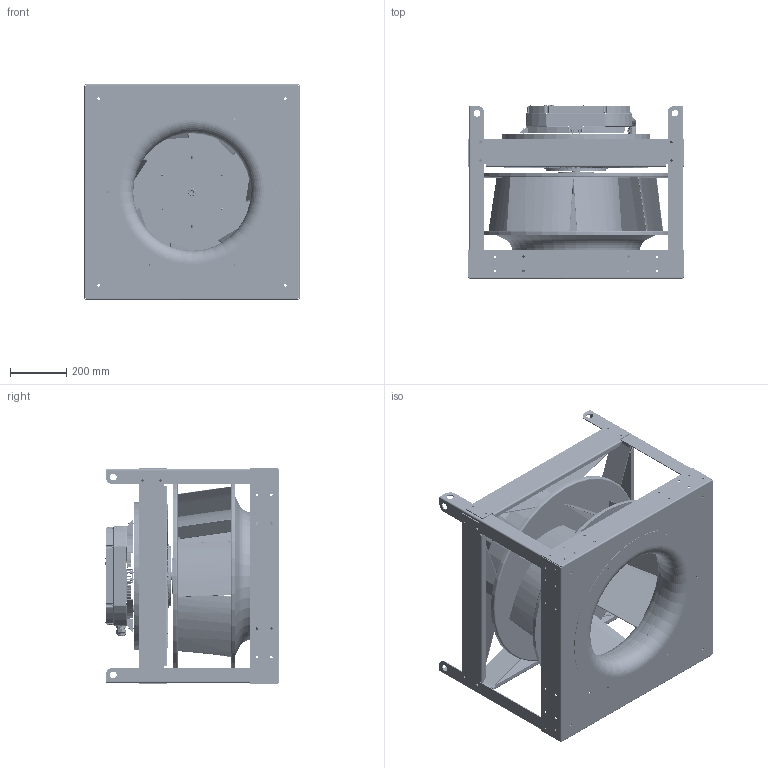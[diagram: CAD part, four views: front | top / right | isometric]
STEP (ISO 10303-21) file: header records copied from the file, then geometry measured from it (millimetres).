
FILE_DESCRIPTION (( 'STEP AP214' ), '1' );
FILE_NAME ('655787.STEP', '2026-04-07T20:44:56', ( '' ), ( '' ), 'SwSTEP 2.0', 'SolidWorks 2023', '' );
FILE_SCHEMA (( 'AUTOMOTIVE_DESIGN' ));
Length unit declared in the file: inch
Products named in the file (8): 925959CS_925959CS; 651555_651555; SXPI STRAP_651578; 651576_651576; 768051CS_768051CS; 651556_651556; 768039CS_768039CS; 655787
Assembly tree (16 placements, depth 2):
  655787
    651555_651555
    651556_651556  x4
    651576_651576  x4
    SXPI STRAP_651578  x4
    925959CS_925959CS
    768039CS_768039CS
    768051CS_768051CS
Bounding box: 766.15 x 620.71 x 766.15 mm (x, y, z)
Volume: 11021905.6 mm3; surface area: 8136293.2 mm2
Topology: 26 solids, 318 shells, 3976 faces, 12721 edges, 8755 vertices
Faces by surface type: cylinder 1131, plane 1129, bspline 1013, cone 329, torus 306, sphere 68
Full cylindrical faces by diameter (mm): 2.9 x2, 5.105 x16, 5.156 x6, 6 x37, 7 x5, 7.137 x48, 7.544 x1, 7.937 x3, 7.938 x1, 8.5 x1, 8.738 x87, 9 x4, 9.73 x8, 10 x8, 10.1 x1, 11.8 x16, 12.5 x1, 12.6 x1, 13 x15, 14 x1, 17.462 x2, 17.463 x2, 23.5 x1, 23.92 x1, 24.282 x1, 25.4 x8, 25.5 x3, 26.2 x1, 26.35 x1, 26.416 x2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
Entity records: 271538 total; most frequent: CARTESIAN_POINT 181157, ORIENTED_EDGE 18034, DIRECTION 16097, EDGE_CURVE 11405, VERTEX_POINT 8133, AXIS2_PLACEMENT_3D 6480, EDGE_LOOP 4577, B_SPLINE_CURVE_WITH_KNOTS 3905
